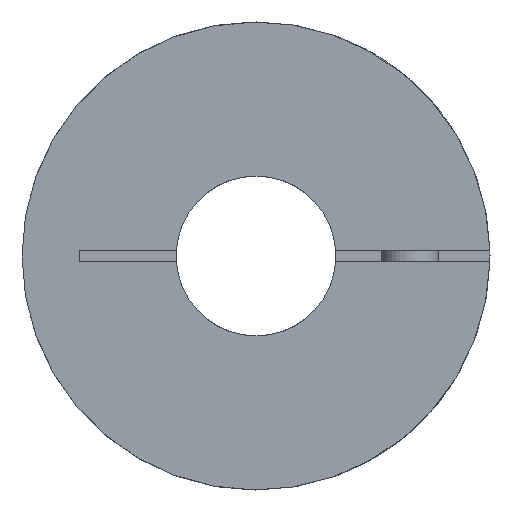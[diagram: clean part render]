
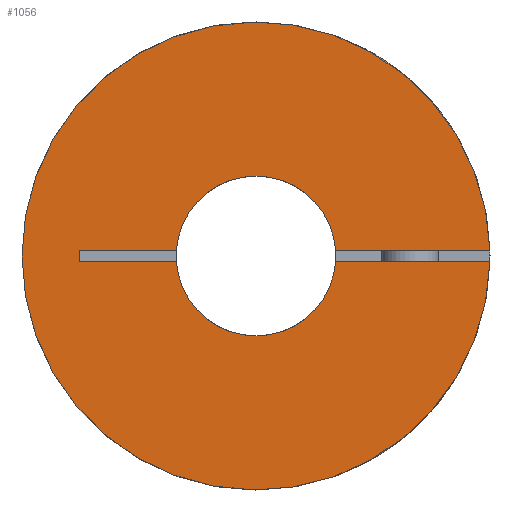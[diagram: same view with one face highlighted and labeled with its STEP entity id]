
A CAD part, left-side view. The second image highlights one B-rep face of the part: STEP entity #1056.
In plain terms, the highlighted planar face has unit normal (-1, 0, 0).
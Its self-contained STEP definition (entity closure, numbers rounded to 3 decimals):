
#696=EDGE_CURVE('',#1961,#991,#2089,.T.);
#913=EDGE_CURVE('',#1918,#1415,#2340,.T.);
#921=VERTEX_POINT('',#2348);
#991=VERTEX_POINT('',#2426);
#1056=ADVANCED_FACE('',(#2498),#2499,.T.);
#1266=EDGE_CURVE('',#1961,#1994,#2724,.T.);
#1395=EDGE_CURVE('',#1948,#1415,#2870,.T.);
#1413=VERTEX_POINT('',#2888);
#1415=VERTEX_POINT('',#2890);
#1431=EDGE_CURVE('',#1936,#1468,#2908,.T.);
#1468=VERTEX_POINT('',#2952);
#1699=EDGE_CURVE('',#1909,#1936,#3210,.T.);
#1715=EDGE_CURVE('',#1994,#921,#3226,.T.);
#1722=EDGE_CURVE('',#1413,#1909,#3234,.T.);
#1724=EDGE_CURVE('',#921,#1918,#3236,.T.);
#1836=EDGE_CURVE('',#1413,#1948,#3360,.T.);
#1909=VERTEX_POINT('',#3441);
#1918=VERTEX_POINT('',#3451);
#1936=VERTEX_POINT('',#3473);
#1948=VERTEX_POINT('',#3488);
#1961=VERTEX_POINT('',#3503);
#1986=EDGE_CURVE('',#991,#1468,#3529,.T.);
#1994=VERTEX_POINT('',#3537);
#2089=LINE('',#3689,#3690);
#2340=LINE('',#4021,#4022);
#2348=CARTESIAN_POINT('',(0.,0.,14.0));
#2426=CARTESIAN_POINT('',(0.,31.0,-1.));
#2498=FACE_OUTER_BOUND('',#4236,.T.);
#2499=PLANE('',#4237);
#2724=LINE('',#4630,#4631);
#2870=CIRCLE('',#4916,41.0);
#2888=CARTESIAN_POINT('',(0.,-40.988,-1.));
#2890=CARTESIAN_POINT('',(0.,-40.988,1.));
#2908=CIRCLE('',#4965,14.0);
#2952=CARTESIAN_POINT('',(0.0,13.964,-1.));
#3210=CIRCLE('',#5455,14.0);
#3226=CIRCLE('',#5517,14.0);
#3234=LINE('',#5527,#5528);
#3236=CIRCLE('',#5531,14.0);
#3360=CIRCLE('',#5695,41.0);
#3441=CARTESIAN_POINT('',(0.0,-13.964,-1.));
#3451=CARTESIAN_POINT('',(0.0,-13.964,1.));
#3473=CARTESIAN_POINT('',(0.,0.,-14.0));
#3488=CARTESIAN_POINT('',(0.,41.0,0.));
#3503=CARTESIAN_POINT('',(0.,31.0,1.));
#3529=LINE('',#5926,#5927);
#3537=CARTESIAN_POINT('',(0.0,13.964,1.));
#3689=CARTESIAN_POINT('',(0.,31.0,1.));
#3690=VECTOR('',#6031,2.);
#4021=CARTESIAN_POINT('',(0.,-9.447,1.));
#4022=VECTOR('',#6372,31.541);
#4236=EDGE_LOOP('',(#6573,#6574,#6575,#6576,#6577,#6578,#6579,#6580,#6581,#6582,#6583));
#4237=AXIS2_PLACEMENT_3D('',#6584,#6585,#6586);
#4630=CARTESIAN_POINT('',(0.,31.0,1.));
#4631=VECTOR('',#6832,21.553);
#4916=AXIS2_PLACEMENT_3D('',#6988,#6989,#6990);
#4965=AXIS2_PLACEMENT_3D('',#7016,#7017,#7018);
#5455=AXIS2_PLACEMENT_3D('',#7367,#7368,#7369);
#5517=AXIS2_PLACEMENT_3D('',#7385,#7386,#7387);
#5527=CARTESIAN_POINT('',(0.,-40.988,-1.));
#5528=VECTOR('',#7396,31.541);
#5531=AXIS2_PLACEMENT_3D('',#7397,#7398,#7399);
#5695=AXIS2_PLACEMENT_3D('',#7527,#7528,#7529);
#5926=CARTESIAN_POINT('',(0.,31.0,-1.));
#5927=VECTOR('',#7729,21.553);
#6031=DIRECTION('',(0.0,0.0,-1.0));
#6372=DIRECTION('',(0.0,-1.0,0.0));
#6573=ORIENTED_EDGE('',*,*,#1699,.T.);
#6574=ORIENTED_EDGE('',*,*,#1431,.T.);
#6575=ORIENTED_EDGE('',*,*,#1986,.F.);
#6576=ORIENTED_EDGE('',*,*,#696,.F.);
#6577=ORIENTED_EDGE('',*,*,#1266,.T.);
#6578=ORIENTED_EDGE('',*,*,#1715,.T.);
#6579=ORIENTED_EDGE('',*,*,#1724,.T.);
#6580=ORIENTED_EDGE('',*,*,#913,.T.);
#6581=ORIENTED_EDGE('',*,*,#1395,.F.);
#6582=ORIENTED_EDGE('',*,*,#1836,.F.);
#6583=ORIENTED_EDGE('',*,*,#1722,.T.);
#6584=CARTESIAN_POINT('',(0.,0.,41.0));
#6585=DIRECTION('',(-1.0,0.0,0.0));
#6586=DIRECTION('',(0.0,-1.0,0.0));
#6832=DIRECTION('',(0.0,-1.0,0.0));
#6988=CARTESIAN_POINT('',(0.,0.,0.));
#6989=DIRECTION('',(1.0,0.0,0.0));
#6990=DIRECTION('',(0.0,1.0,0.0));
#7016=CARTESIAN_POINT('',(0.,0.0,0.0));
#7017=DIRECTION('',(1.0,0.0,-0.0));
#7018=DIRECTION('',(0.0,0.0,1.0));
#7367=CARTESIAN_POINT('',(0.,0.0,0.0));
#7368=DIRECTION('',(1.0,0.0,-0.0));
#7369=DIRECTION('',(0.0,0.0,1.0));
#7385=CARTESIAN_POINT('',(0.,0.0,0.0));
#7386=DIRECTION('',(1.0,0.0,-0.0));
#7387=DIRECTION('',(0.0,0.0,1.0));
#7396=DIRECTION('',(0.0,1.0,0.0));
#7397=CARTESIAN_POINT('',(0.,0.0,0.0));
#7398=DIRECTION('',(1.0,0.0,-0.0));
#7399=DIRECTION('',(0.0,0.0,1.0));
#7527=CARTESIAN_POINT('',(0.,0.,0.));
#7528=DIRECTION('',(1.0,0.0,0.0));
#7529=DIRECTION('',(0.0,1.0,0.0));
#7729=DIRECTION('',(0.0,-1.0,0.0));
